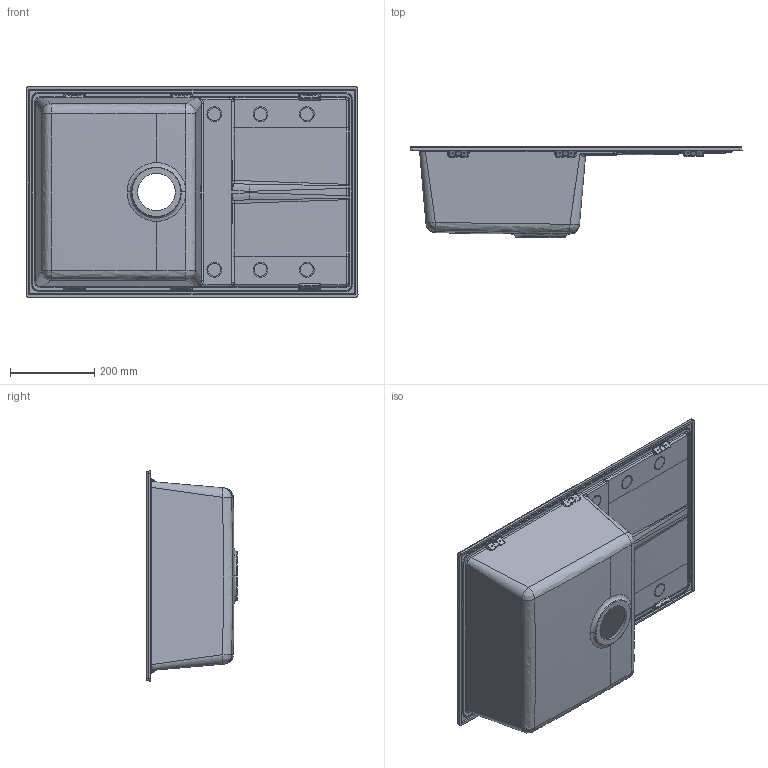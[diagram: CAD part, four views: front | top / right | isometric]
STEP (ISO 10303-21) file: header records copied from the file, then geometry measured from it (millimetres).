
FILE_DESCRIPTION (( 'STEP AP203' ), '1' );
FILE_NAME ('UNICO300.STEP', '2018-10-11T09:37:46', ( '' ), ( '' ), 'SwSTEP 2.0', 'SolidWorks 2013', '' );
FILE_SCHEMA (( 'CONFIG_CONTROL_DESIGN' ));
Products named in the file (1): UNICO300
Bounding box: 790 x 216.49 x 500 mm (x, y, z)
Volume: 5421731.7 mm3; surface area: 1354563 mm2
Topology: 1 solids, 1 shells, 683 faces, 1641 edges, 946 vertices
Faces by surface type: bspline 351, cylinder 239, plane 83, torus 6, cone 4
Entity records: 57801 total; most frequent: CARTESIAN_POINT 44707, ORIENTED_EDGE 3198, DIRECTION 2032, EDGE_CURVE 1599, VERTEX_POINT 946, AXIS2_PLACEMENT_3D 810, EDGE_LOOP 715, FACE_OUTER_BOUND 683
